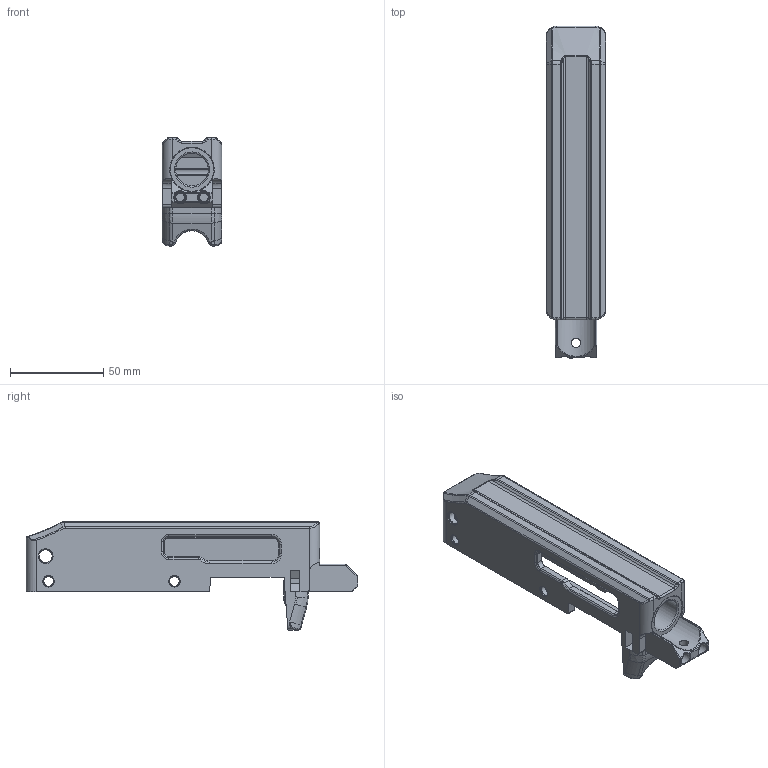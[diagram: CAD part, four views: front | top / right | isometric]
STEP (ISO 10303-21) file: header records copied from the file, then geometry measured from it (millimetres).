
FILE_DESCRIPTION(/* description */ (''),/* implementation_level */ '2;1');
FILE_NAME(/* name */ 'C:/Users/FFFTech/3D Objects/The Bad Stuff/Firearms Related/Firearms Parts/10-22 Parts/Receivers/L-X22 Receivers/STEP Files/Model I/L-X22 Model I-R.step',/* time_stamp */ '2021-08-08T17:00:55-04:00',/* author */ (''),/* organization */ (''),/* preprocessor_version */ 'ST-DEVELOPER v18.1',/* originating_system */ 'Autodesk Translation Framework v10.9.0.1377',/* authorisation */ '');
FILE_SCHEMA (('AUTOMOTIVE_DESIGN { 1 0 10303 214 3 1 1 }'));
Length unit declared in the file: millimetre
Products named in the file (1): LX22 Model I-R Receiver
Bounding box: 31.95 x 177.8 x 58.08 mm (x, y, z)
Volume: 79086.1 mm3; surface area: 35874.8 mm2
Topology: 1 solids, 1 shells, 413 faces, 1069 edges, 646 vertices
Faces by surface type: cylinder 124, bspline 109, plane 104, torus 48, cone 22, sphere 6
Full cylindrical faces by diameter (mm): 1.6 x1, 4.648 x4, 5 x1, 5.175 x4, 6.426 x2, 6.95 x1, 15.6 x1, 17.45 x1, 23.393 x1
Entity records: 15469 total; most frequent: CARTESIAN_POINT 5801, ORIENTED_EDGE 2114, DIRECTION 1907, EDGE_CURVE 1057, AXIS2_PLACEMENT_3D 749, VERTEX_POINT 646, EDGE_LOOP 439, FACE_OUTER_BOUND 413
